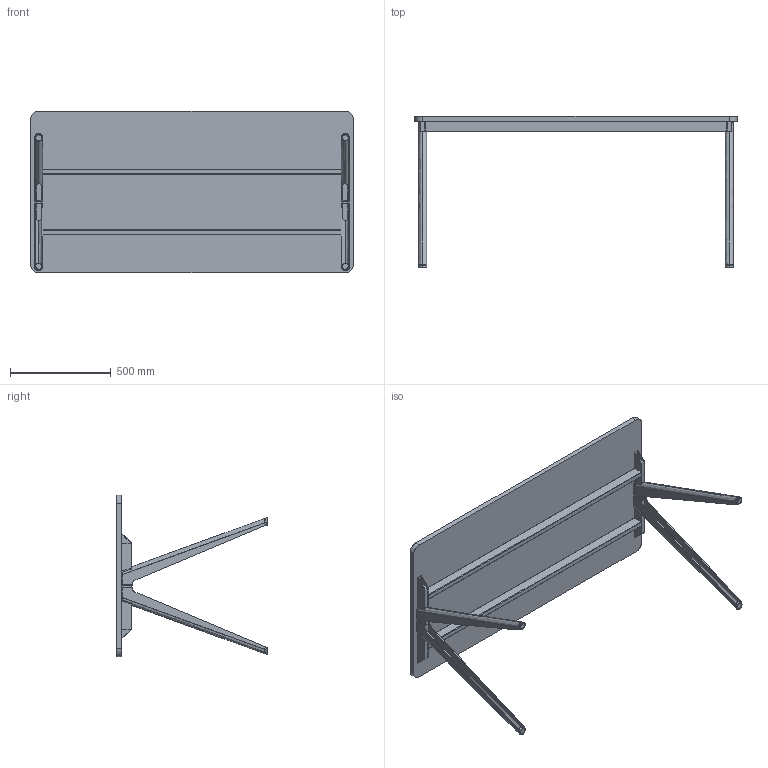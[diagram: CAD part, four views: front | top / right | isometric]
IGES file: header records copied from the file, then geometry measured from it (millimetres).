
Start section: SolidWorks IGES file using analytic representation for surfaces
Global section: file name: C:\Users\simone.cerana\OneDrive - Gruppo Tecno\Desktop\CHINA\DISEGNI DI SERIE\ASSIEMI LISTINO\HORIZON LISTINO\HO1608ST.IGS; native system: SolidWorks 2024; preprocessor: SolidWorks 2024; author: simone.cerana; date: 260508.124032; units: millimetre
Bounding box: 1600 x 749.83 x 800 mm (x, y, z)
Surface area: 3873000.1 mm2 (no closed solid volume)
Topology: 0 solids, 0 shells, 252 faces, 3496 edges, 3496 vertices
Faces by surface type: bspline 166, revolution 86
